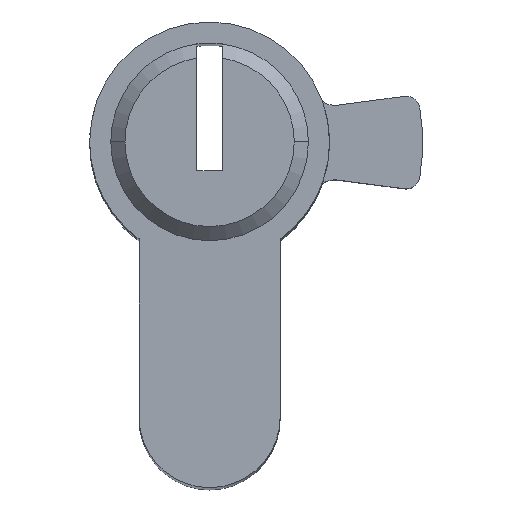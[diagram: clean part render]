
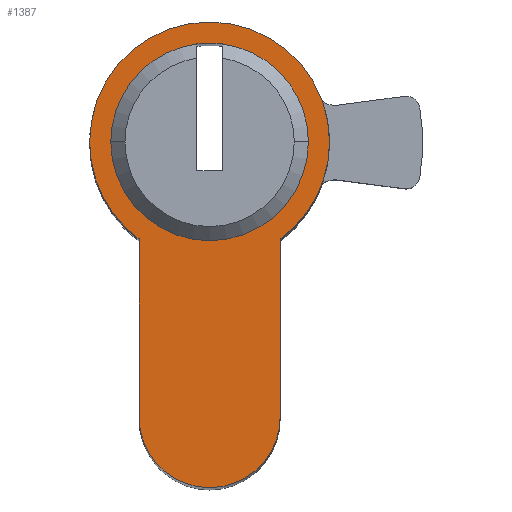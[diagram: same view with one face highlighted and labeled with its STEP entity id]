
A CAD part, top view. The second image highlights one B-rep face of the part: STEP entity #1387.
In plain terms, the highlighted planar face has unit normal (0, 0, 1).
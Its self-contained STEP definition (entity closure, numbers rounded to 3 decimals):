
#45 = CARTESIAN_POINT ( 'NONE',  ( -5., -6.874, 30. ) ) ;
#80 = DIRECTION ( 'NONE',  ( 1., 0., 0. ) ) ;
#121 = AXIS2_PLACEMENT_3D ( 'NONE', #1253, #159, #308 ) ;
#157 = AXIS2_PLACEMENT_3D ( 'NONE', #753, #251, #631 ) ;
#159 = DIRECTION ( 'NONE',  ( 0., 0., 1. ) ) ;
#166 = CARTESIAN_POINT ( 'NONE',  ( -0.9, 6.942, 30. ) ) ;
#179 = FACE_BOUND ( 'NONE', #1399, .T. ) ;
#182 = AXIS2_PLACEMENT_3D ( 'NONE', #1346, #1067, #917 ) ;
#189 = CARTESIAN_POINT ( 'NONE',  ( 0., 0., 30. ) ) ;
#191 = ORIENTED_EDGE ( 'NONE', *, *, #430, .T. ) ;
#192 = CARTESIAN_POINT ( 'NONE',  ( 5., -19.5, 30. ) ) ;
#224 = DIRECTION ( 'NONE',  ( 0., 0., 1. ) ) ;
#235 = CIRCLE ( 'NONE', #121, 8.5 ) ;
#237 = CARTESIAN_POINT ( 'NONE',  ( 0.9, 6.942, 30. ) ) ;
#251 = DIRECTION ( 'NONE',  ( 0., 0., 1. ) ) ;
#281 = ORIENTED_EDGE ( 'NONE', *, *, #1130, .T. ) ;
#306 = VERTEX_POINT ( 'NONE', #1228 ) ;
#308 = DIRECTION ( 'NONE',  ( 1., 0., 0. ) ) ;
#311 = PLANE ( 'NONE',  #1588 ) ;
#312 = ORIENTED_EDGE ( 'NONE', *, *, #1453, .T. ) ;
#372 = CARTESIAN_POINT ( 'NONE',  ( 0., 0., 30. ) ) ;
#382 = ORIENTED_EDGE ( 'NONE', *, *, #1707, .T. ) ;
#384 = CARTESIAN_POINT ( 'NONE',  ( 0., 0., 30. ) ) ;
#430 = EDGE_CURVE ( 'NONE', #1676, #1327, #235, .T. ) ;
#454 = ORIENTED_EDGE ( 'NONE', *, *, #793, .T. ) ;
#492 = ORIENTED_EDGE ( 'NONE', *, *, #566, .F. ) ;
#522 = VERTEX_POINT ( 'NONE', #166 ) ;
#533 = ORIENTED_EDGE ( 'NONE', *, *, #1517, .F. ) ;
#566 = EDGE_CURVE ( 'NONE', #522, #1184, #1108, .T. ) ;
#601 = DIRECTION ( 'NONE',  ( 1., 0., 0. ) ) ;
#611 = DIRECTION ( 'NONE',  ( 0., 0., 1. ) ) ;
#624 = VERTEX_POINT ( 'NONE', #1297 ) ;
#631 = DIRECTION ( 'NONE',  ( 1., 0., 0. ) ) ;
#661 = CIRCLE ( 'NONE', #972, 8.5 ) ;
#678 = VERTEX_POINT ( 'NONE', #237 ) ;
#691 = EDGE_CURVE ( 'NONE', #1066, #1636, #1418, .T. ) ;
#713 = ORIENTED_EDGE ( 'NONE', *, *, #691, .T. ) ;
#717 = CARTESIAN_POINT ( 'NONE',  ( 8.5, 0., 30. ) ) ;
#719 = AXIS2_PLACEMENT_3D ( 'NONE', #1706, #1680, #601 ) ;
#721 = CARTESIAN_POINT ( 'NONE',  ( -8.5, 0., 30. ) ) ;
#731 = DIRECTION ( 'NONE',  ( 0., 1., 0. ) ) ;
#753 = CARTESIAN_POINT ( 'NONE',  ( 0., 0., 30. ) ) ;
#758 = DIRECTION ( 'NONE',  ( 1., 0., 0. ) ) ;
#793 = EDGE_CURVE ( 'NONE', #306, #1676, #1111, .T. ) ;
#803 = CARTESIAN_POINT ( 'NONE',  ( 5., -19.5, 30. ) ) ;
#805 = CARTESIAN_POINT ( 'NONE',  ( -7., 0., 30. ) ) ;
#833 = LINE ( 'NONE', #1244, #1032 ) ;
#836 = FACE_OUTER_BOUND ( 'NONE', #1400, .T. ) ;
#872 = LINE ( 'NONE', #192, #1679 ) ;
#914 = DIRECTION ( 'NONE',  ( 0., 0., 1. ) ) ;
#916 = VERTEX_POINT ( 'NONE', #45 ) ;
#917 = DIRECTION ( 'NONE',  ( 1., 0., 0. ) ) ;
#972 = AXIS2_PLACEMENT_3D ( 'NONE', #372, #224, #80 ) ;
#978 = DIRECTION ( 'NONE',  ( 0., -1., 0. ) ) ;
#1031 = AXIS2_PLACEMENT_3D ( 'NONE', #1333, #1617, #1098 ) ;
#1032 = VECTOR ( 'NONE', #978, 1000. ) ;
#1036 = ORIENTED_EDGE ( 'NONE', *, *, #1520, .F. ) ;
#1066 = VERTEX_POINT ( 'NONE', #1426 ) ;
#1067 = DIRECTION ( 'NONE',  ( 0., 0., 1. ) ) ;
#1098 = DIRECTION ( 'NONE',  ( 1., 0., 0. ) ) ;
#1108 = CIRCLE ( 'NONE', #1584, 7. ) ;
#1111 = CIRCLE ( 'NONE', #182, 8.5 ) ;
#1130 = EDGE_CURVE ( 'NONE', #1636, #306, #872, .T. ) ;
#1184 = VERTEX_POINT ( 'NONE', #805 ) ;
#1228 = CARTESIAN_POINT ( 'NONE',  ( 5., -6.874, 30. ) ) ;
#1244 = CARTESIAN_POINT ( 'NONE',  ( -5., -6.874, 30. ) ) ;
#1248 = EDGE_CURVE ( 'NONE', #1184, #624, #1363, .T. ) ;
#1253 = CARTESIAN_POINT ( 'NONE',  ( 0., 0., 30. ) ) ;
#1257 = DIRECTION ( 'NONE',  ( 1., 0., 0. ) ) ;
#1285 = AXIS2_PLACEMENT_3D ( 'NONE', #384, #914, #758 ) ;
#1297 = CARTESIAN_POINT ( 'NONE',  ( 7., 0., 30. ) ) ;
#1310 = CIRCLE ( 'NONE', #157, 7. ) ;
#1327 = VERTEX_POINT ( 'NONE', #721 ) ;
#1333 = CARTESIAN_POINT ( 'NONE',  ( 0., 0., 30. ) ) ;
#1346 = CARTESIAN_POINT ( 'NONE',  ( 0., 0., 30. ) ) ;
#1363 = CIRCLE ( 'NONE', #1031, 7. ) ;
#1384 = DIRECTION ( 'NONE',  ( 0., 0., 1. ) ) ;
#1387 = ADVANCED_FACE ( 'NONE', ( #179, #836 ), #311, .T. ) ;
#1399 = EDGE_LOOP ( 'NONE', ( #533, #1036, #1413, #492 ) ) ;
#1400 = EDGE_LOOP ( 'NONE', ( #454, #191, #312, #382, #713, #281 ) ) ;
#1408 = CARTESIAN_POINT ( 'NONE',  ( 0., 0., 30. ) ) ;
#1413 = ORIENTED_EDGE ( 'NONE', *, *, #1248, .F. ) ;
#1418 = CIRCLE ( 'NONE', #719, 5. ) ;
#1426 = CARTESIAN_POINT ( 'NONE',  ( -5., -19.5, 30. ) ) ;
#1453 = EDGE_CURVE ( 'NONE', #1327, #916, #661, .T. ) ;
#1517 = EDGE_CURVE ( 'NONE', #678, #522, #1681, .T. ) ;
#1520 = EDGE_CURVE ( 'NONE', #624, #678, #1310, .T. ) ;
#1571 = DIRECTION ( 'NONE',  ( 1., 0., 0. ) ) ;
#1584 = AXIS2_PLACEMENT_3D ( 'NONE', #1408, #611, #1571 ) ;
#1588 = AXIS2_PLACEMENT_3D ( 'NONE', #189, #1384, #1257 ) ;
#1617 = DIRECTION ( 'NONE',  ( 0., 0., 1. ) ) ;
#1636 = VERTEX_POINT ( 'NONE', #803 ) ;
#1676 = VERTEX_POINT ( 'NONE', #717 ) ;
#1679 = VECTOR ( 'NONE', #731, 1000. ) ;
#1680 = DIRECTION ( 'NONE',  ( 0., 0., 1. ) ) ;
#1681 = CIRCLE ( 'NONE', #1285, 7. ) ;
#1706 = CARTESIAN_POINT ( 'NONE',  ( 0., -19.5, 30. ) ) ;
#1707 = EDGE_CURVE ( 'NONE', #916, #1066, #833, .T. ) ;
